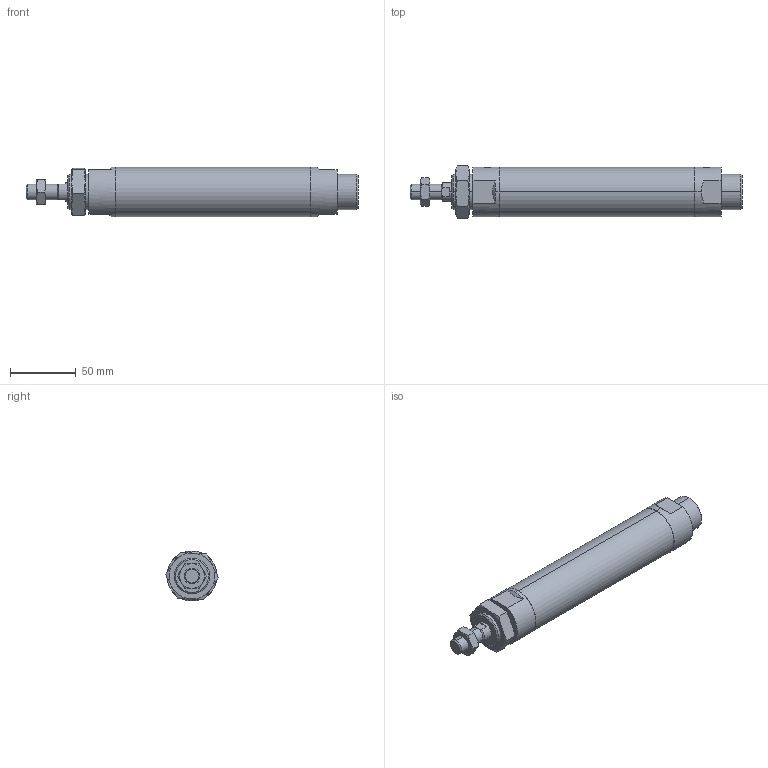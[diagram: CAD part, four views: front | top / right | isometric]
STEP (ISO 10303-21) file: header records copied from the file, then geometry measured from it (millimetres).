
FILE_DESCRIPTION (( 'STEP AP203' ), '1' );
FILE_NAME ('J#2-32-100-N.STEP', '2016-03-08T07:37:24', ( '' ), ( '' ), 'SwSTEP 2.0', 'SolidWorks 2014', '' );
FILE_SCHEMA (( 'CONFIG_CONTROL_DESIGN' ));
Length unit declared in the file: millimetre
Products named in the file (4): J#2-32-100-N; J#2-32-100
Assembly tree (3 placements, depth 2):
  J#2-32-100-N
    J#2-32-100
    (unnamed)
    (unnamed)
Bounding box: 253 x 40.33 x 38 mm (x, y, z)
Volume: 235937.3 mm3; surface area: 33834.6 mm2
Topology: 3 solids, 3 shells, 94 faces, 210 edges, 125 vertices
Faces by surface type: plane 33, torus 24, cylinder 22, cone 15
Entity records: 3451 total; most frequent: CARTESIAN_POINT 1038, DIRECTION 421, ORIENTED_EDGE 412, EDGE_CURVE 206, AXIS2_PLACEMENT_3D 178, VERTEX_POINT 125, EDGE_LOOP 105, ADVANCED_FACE 94
